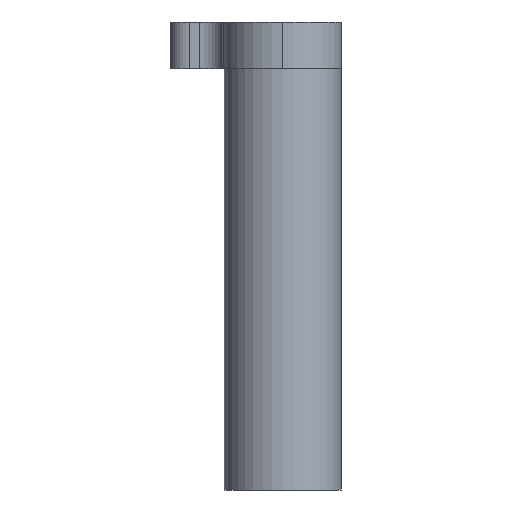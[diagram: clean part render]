
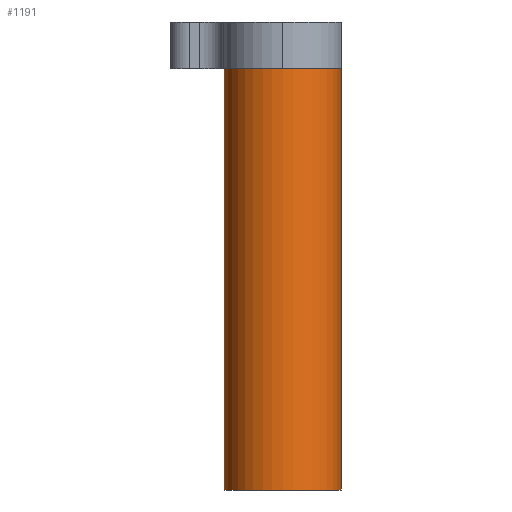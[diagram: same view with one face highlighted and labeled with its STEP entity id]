
A CAD part, left-side view. The second image highlights one B-rep face of the part: STEP entity #1191.
In plain terms, the highlighted cylindrical face has radius 7.5 mm (diameter 15 mm), a partial arc.
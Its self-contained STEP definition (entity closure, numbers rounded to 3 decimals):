
#1 = EDGE_LOOP ( 'NONE', ( #882, #136, #1165, #1300 ) ) ;
#58 = DIRECTION ( 'NONE',  ( 0., 0., 1. ) ) ;
#77 = CARTESIAN_POINT ( 'NONE',  ( -7.5, -7.5, 0. ) ) ;
#136 = ORIENTED_EDGE ( 'NONE', *, *, #402, .F. ) ;
#149 = CARTESIAN_POINT ( 'NONE',  ( -7.5, 7.5, 0. ) ) ;
#153 = CARTESIAN_POINT ( 'NONE',  ( -7.5, -7.5, -54. ) ) ;
#185 = DIRECTION ( 'NONE',  ( 0., 0., 1. ) ) ;
#187 = CARTESIAN_POINT ( 'NONE',  ( -7.5, 7.5, -54. ) ) ;
#222 = VECTOR ( 'NONE', #185, 1000. ) ;
#242 = CARTESIAN_POINT ( 'NONE',  ( -7.5, -7.5, -54. ) ) ;
#246 = DIRECTION ( 'NONE',  ( 0., 0., 1. ) ) ;
#262 = DIRECTION ( 'NONE',  ( 1., 0., 0. ) ) ;
#270 = VERTEX_POINT ( 'NONE', #242 ) ;
#333 = EDGE_CURVE ( 'NONE', #270, #562, #376, .T. ) ;
#376 = LINE ( 'NONE', #153, #746 ) ;
#402 = EDGE_CURVE ( 'NONE', #790, #1247, #1162, .T. ) ;
#456 = EDGE_CURVE ( 'NONE', #1247, #562, #669, .T. ) ;
#526 = DIRECTION ( 'NONE',  ( 0., 0., 1. ) ) ;
#562 = VERTEX_POINT ( 'NONE', #77 ) ;
#571 = AXIS2_PLACEMENT_3D ( 'NONE', #1481, #58, #1364 ) ;
#601 = CARTESIAN_POINT ( 'NONE',  ( -7.5, 0., -54. ) ) ;
#613 = AXIS2_PLACEMENT_3D ( 'NONE', #601, #246, #1323 ) ;
#669 = CIRCLE ( 'NONE', #571, 7.5 ) ;
#746 = VECTOR ( 'NONE', #1325, 1000. ) ;
#776 = AXIS2_PLACEMENT_3D ( 'NONE', #1463, #526, #262 ) ;
#790 = VERTEX_POINT ( 'NONE', #977 ) ;
#882 = ORIENTED_EDGE ( 'NONE', *, *, #456, .F. ) ;
#945 = CYLINDRICAL_SURFACE ( 'NONE', #613, 7.5 ) ;
#962 = CIRCLE ( 'NONE', #776, 7.5 ) ;
#977 = CARTESIAN_POINT ( 'NONE',  ( -7.5, 7.5, -54. ) ) ;
#1162 = LINE ( 'NONE', #187, #222 ) ;
#1165 = ORIENTED_EDGE ( 'NONE', *, *, #1256, .T. ) ;
#1191 = ADVANCED_FACE ( 'NONE', ( #1422 ), #945, .T. ) ;
#1247 = VERTEX_POINT ( 'NONE', #149 ) ;
#1256 = EDGE_CURVE ( 'NONE', #790, #270, #962, .T. ) ;
#1300 = ORIENTED_EDGE ( 'NONE', *, *, #333, .T. ) ;
#1323 = DIRECTION ( 'NONE',  ( 1., 0., 0. ) ) ;
#1325 = DIRECTION ( 'NONE',  ( 0., 0., 1. ) ) ;
#1364 = DIRECTION ( 'NONE',  ( 1., 0., 0. ) ) ;
#1422 = FACE_OUTER_BOUND ( 'NONE', #1, .T. ) ;
#1463 = CARTESIAN_POINT ( 'NONE',  ( -7.5, 0., -54. ) ) ;
#1481 = CARTESIAN_POINT ( 'NONE',  ( -7.5, 0., 0. ) ) ;
